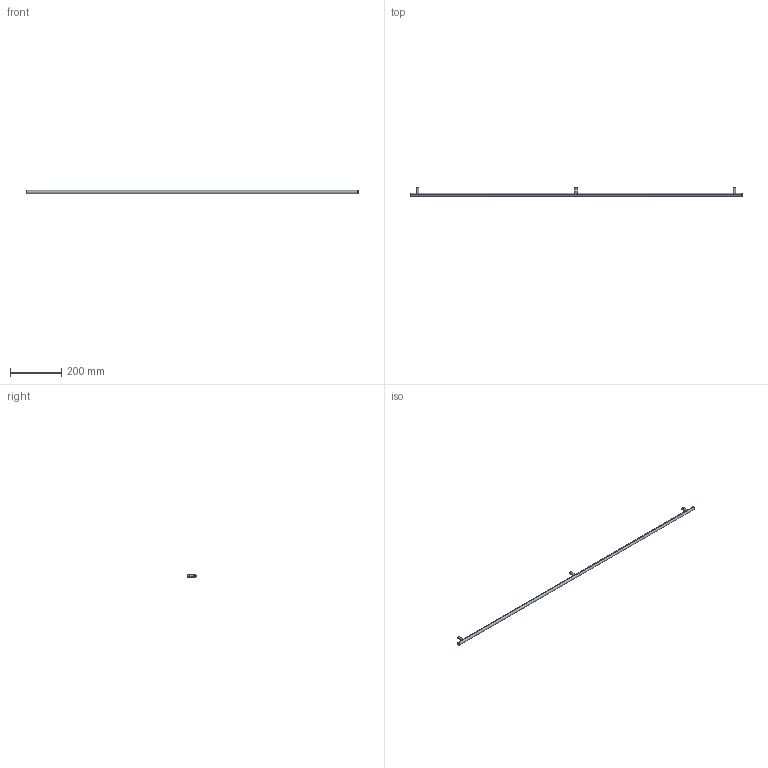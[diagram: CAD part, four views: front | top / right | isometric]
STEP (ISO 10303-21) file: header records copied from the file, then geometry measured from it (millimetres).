
FILE_DESCRIPTION( ( '' ), '1' );
FILE_NAME( 'C:/Documents and Settings/Sachin/Desktop/Sheet 10_1/stp/9070755.stp', '2013-10-22T12:28:21', ( '' ), ( '' ), ' ', ' ', ' ' );
FILE_SCHEMA( ( 'CONFIG_CONTROL_DESIGN' ) );
Length unit declared in the file: millimetre
Products named in the file (1): 1
Bounding box: 1300 x 35 x 12 mm (x, y, z)
Volume: 152265.4 mm3; surface area: 51759 mm2
Topology: 1 solids, 1 shells, 26 faces, 57 edges, 39 vertices
Faces by surface type: cylinder 14, plane 8, torus 4
Entity records: 966 total; most frequent: CARTESIAN_POINT 324, DIRECTION 136, ORIENTED_EDGE 114, AXIS2_PLACEMENT_3D 61, EDGE_CURVE 57, VERTEX_POINT 39, CIRCLE 34, EDGE_LOOP 32
